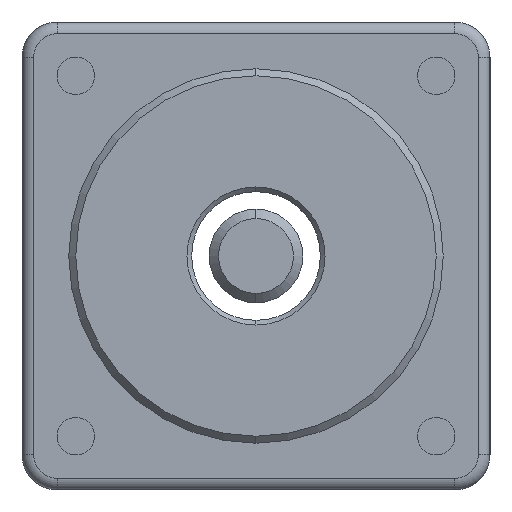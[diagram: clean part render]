
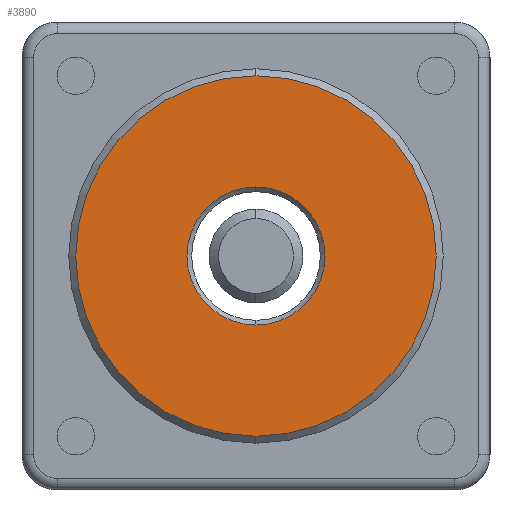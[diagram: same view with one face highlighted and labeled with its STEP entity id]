
A CAD part, left-side view. The second image highlights one B-rep face of the part: STEP entity #3890.
In plain terms, the highlighted planar face has unit normal (-1, 0, 0).
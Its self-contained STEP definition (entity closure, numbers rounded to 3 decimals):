
#229 = DIRECTION ( 'NONE',  ( 0., 0., 1. ) ) ;
#412 = AXIS2_PLACEMENT_3D ( 'NONE', #1574, #2744, #6752 ) ;
#614 = EDGE_CURVE ( 'NONE', #2787, #2565, #4231, .T. ) ;
#1124 = DIRECTION ( 'NONE',  ( -1., 0., 0. ) ) ;
#1574 = CARTESIAN_POINT ( 'NONE',  ( -1.5, 0., 0. ) ) ;
#1641 = CARTESIAN_POINT ( 'NONE',  ( -1.5, 0., -7.7 ) ) ;
#1699 = CARTESIAN_POINT ( 'NONE',  ( -1.5, 0., 0. ) ) ;
#1772 = EDGE_LOOP ( 'NONE', ( #4383, #5725 ) ) ;
#1801 = AXIS2_PLACEMENT_3D ( 'NONE', #3666, #1124, #5214 ) ;
#1998 = FACE_OUTER_BOUND ( 'NONE', #1772, .T. ) ;
#2125 = CARTESIAN_POINT ( 'NONE',  ( -1.5, 0., 7.7 ) ) ;
#2291 = ORIENTED_EDGE ( 'NONE', *, *, #614, .T. ) ;
#2321 = PLANE ( 'NONE',  #5120 ) ;
#2374 = EDGE_CURVE ( 'NONE', #2950, #2478, #4987, .T. ) ;
#2478 = VERTEX_POINT ( 'NONE', #1641 ) ;
#2565 = VERTEX_POINT ( 'NONE', #5286 ) ;
#2744 = DIRECTION ( 'NONE',  ( 1., 0., 0. ) ) ;
#2787 = VERTEX_POINT ( 'NONE', #2912 ) ;
#2912 = CARTESIAN_POINT ( 'NONE',  ( -1.5, 0., -2.95 ) ) ;
#2950 = VERTEX_POINT ( 'NONE', #2125 ) ;
#2985 = EDGE_CURVE ( 'NONE', #2478, #2950, #3131, .T. ) ;
#3131 = CIRCLE ( 'NONE', #1801, 7.7 ) ;
#3275 = DIRECTION ( 'NONE',  ( 0., 0., 1. ) ) ;
#3566 = AXIS2_PLACEMENT_3D ( 'NONE', #1699, #4805, #3275 ) ;
#3666 = CARTESIAN_POINT ( 'NONE',  ( -1.5, 0., 0. ) ) ;
#3890 = ADVANCED_FACE ( 'NONE', ( #4170, #1998 ), #2321, .T. ) ;
#4170 = FACE_BOUND ( 'NONE', #6264, .T. ) ;
#4231 = CIRCLE ( 'NONE', #5679, 2.95 ) ;
#4383 = ORIENTED_EDGE ( 'NONE', *, *, #2985, .T. ) ;
#4805 = DIRECTION ( 'NONE',  ( -1., 0., 0. ) ) ;
#4987 = CIRCLE ( 'NONE', #3566, 7.7 ) ;
#5049 = CARTESIAN_POINT ( 'NONE',  ( -1.5, 0., 0. ) ) ;
#5120 = AXIS2_PLACEMENT_3D ( 'NONE', #6483, #5510, #229 ) ;
#5214 = DIRECTION ( 'NONE',  ( 0., 0., 1. ) ) ;
#5286 = CARTESIAN_POINT ( 'NONE',  ( -1.5, 0., 2.95 ) ) ;
#5510 = DIRECTION ( 'NONE',  ( -1., 0., 0. ) ) ;
#5679 = AXIS2_PLACEMENT_3D ( 'NONE', #5049, #6146, #6114 ) ;
#5725 = ORIENTED_EDGE ( 'NONE', *, *, #2374, .T. ) ;
#6114 = DIRECTION ( 'NONE',  ( 0., 0., 1. ) ) ;
#6146 = DIRECTION ( 'NONE',  ( 1., 0., 0. ) ) ;
#6264 = EDGE_LOOP ( 'NONE', ( #6399, #2291 ) ) ;
#6296 = CIRCLE ( 'NONE', #412, 2.95 ) ;
#6399 = ORIENTED_EDGE ( 'NONE', *, *, #6676, .T. ) ;
#6483 = CARTESIAN_POINT ( 'NONE',  ( -1.5, 0., 0. ) ) ;
#6676 = EDGE_CURVE ( 'NONE', #2565, #2787, #6296, .T. ) ;
#6752 = DIRECTION ( 'NONE',  ( 0., 0., 1. ) ) ;
